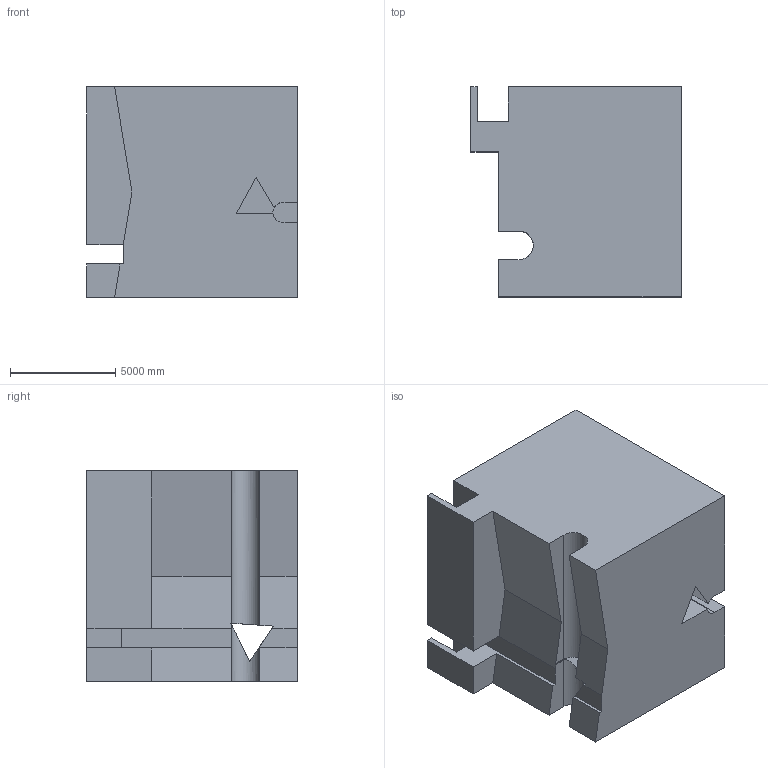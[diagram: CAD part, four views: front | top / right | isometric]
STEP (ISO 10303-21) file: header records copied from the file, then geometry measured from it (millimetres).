
FILE_DESCRIPTION (( 'STEP AP203' ), '1' );
FILE_NAME ('75.STEP', '2022-08-30T14:23:33', ( 'user' ), ( '' ), 'SwSTEP 2.0', 'SolidWorks 2021', '' );
FILE_SCHEMA (( 'CONFIG_CONTROL_DESIGN' ));
Length unit declared in the file: centimetre
Products named in the file (1): 75
Bounding box: 10000 x 10000 x 10000 mm (x, y, z)
Volume: 793518686051.8 mm3; surface area: 743051918.5 mm2
Topology: 1 solids, 1 shells, 49 faces, 137 edges, 91 vertices
Faces by surface type: plane 42, cylinder 7
Entity records: 1638 total; most frequent: CARTESIAN_POINT 287, ORIENTED_EDGE 274, DIRECTION 248, EDGE_CURVE 137, LINE 120, VECTOR 120, VERTEX_POINT 91, AXIS2_PLACEMENT_3D 64
